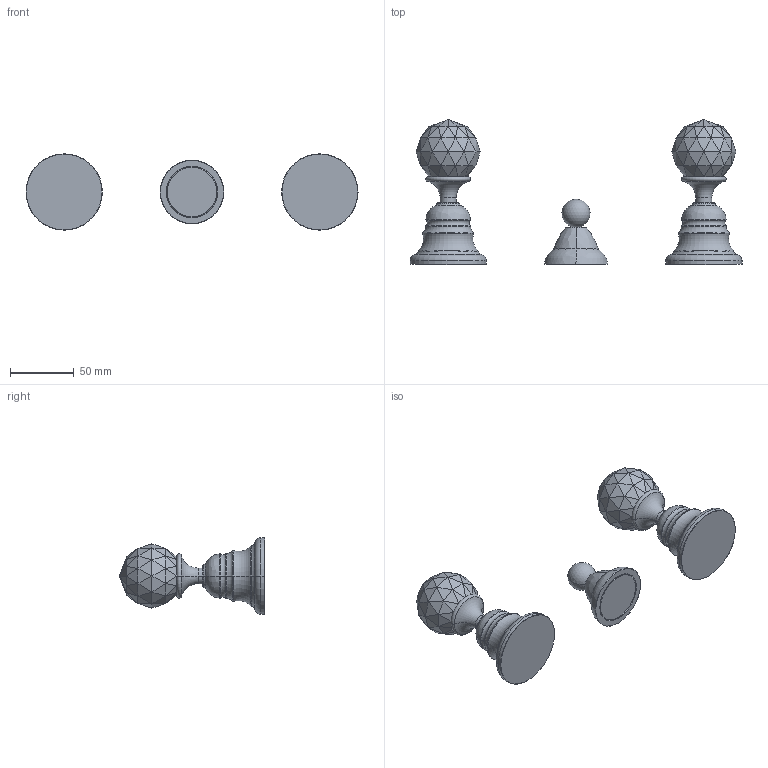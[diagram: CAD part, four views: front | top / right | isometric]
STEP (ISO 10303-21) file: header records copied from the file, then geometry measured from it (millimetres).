
FILE_DESCRIPTION((''),'2;1');
FILE_NAME('F5102C_2013_SW0001','2013-07-16T',('ivanv'),(''),'PRO/ENGINEER BY PARAMETRIC TECHNOLOGY CORPORATION, 2012130','PRO/ENGINEER BY PARAMETRIC TECHNOLOGY CORPORATION, 2012130','');
FILE_SCHEMA(('CONFIG_CONTROL_DESIGN'));
Length unit declared in the file: millimetre
Products named in the file (1): F5102C_2013_SW0001
Bounding box: 259.7 x 113.43 x 59.7 mm (x, y, z)
Volume: 288503.4 mm3; surface area: 49378.6 mm2
Topology: 5 solids, 5 shells, 508 faces, 1048 edges, 555 vertices
Faces by surface type: plane 340, cylinder 74, torus 58, cone 26, bspline 8, sphere 2
Entity records: 13119 total; most frequent: CARTESIAN_POINT 2437, DIRECTION 2332, ORIENTED_EDGE 2084, EDGE_CURVE 1042, AXIS2_PLACEMENT_3D 805, VECTOR 722, LINE 722, VERTEX_POINT 555
